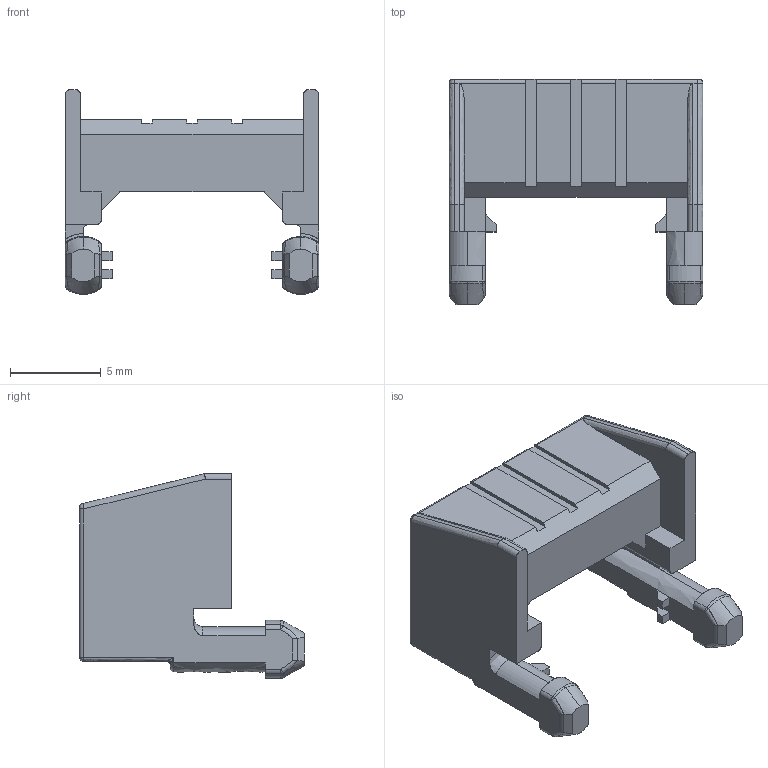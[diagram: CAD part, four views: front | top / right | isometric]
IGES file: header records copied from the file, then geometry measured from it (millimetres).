
Start section: SolidWorks IGES file using analytic representation for surfaces
Bounding box: 14 x 12.4 x 11.3 mm (x, y, z)
Surface area: 700.6 mm2 (no closed solid volume)
Topology: 0 solids, 0 shells, 198 faces, 1266 edges, 1258 vertices
Faces by surface type: bspline 117, revolution 81
